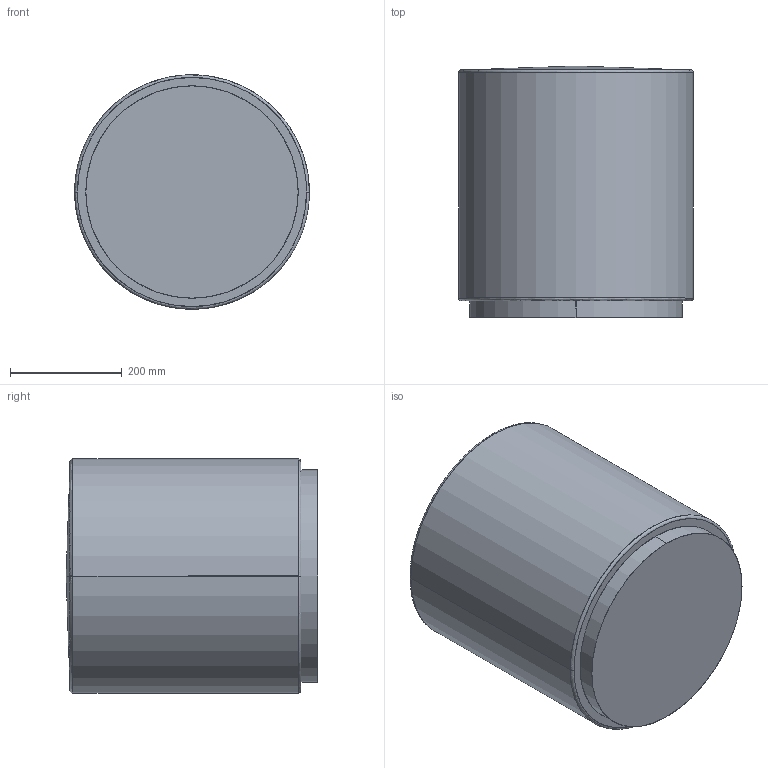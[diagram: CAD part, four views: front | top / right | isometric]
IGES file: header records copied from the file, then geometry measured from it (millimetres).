
Start section: SolidWorks IGES file using analytic representation for surfaces
Global section: file name: C:\Users\emanuel\Documents\TRABALHO\DESENHO TÉCNICO\JMS\Catalago MORE CONTRACT\Pouf\M104.B2.ST\POUF_M104_B2_ST.IGS; native system: SolidWorks 2017; preprocessor: SolidWorks 2017; author: Emanuel; date: 170609.083042; units: millimetre
Bounding box: 420 x 450 x 420 mm (x, y, z)
Surface area: 1079488.8 mm2 (no closed solid volume)
Topology: 0 solids, 0 shells, 13 faces, 232 edges, 230 vertices
Faces by surface type: bspline 9, revolution 4
